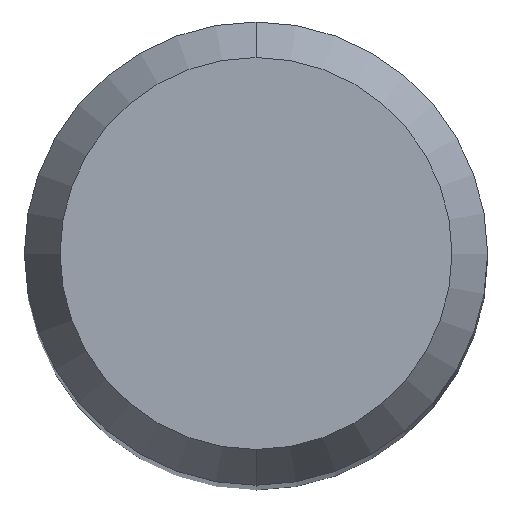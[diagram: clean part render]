
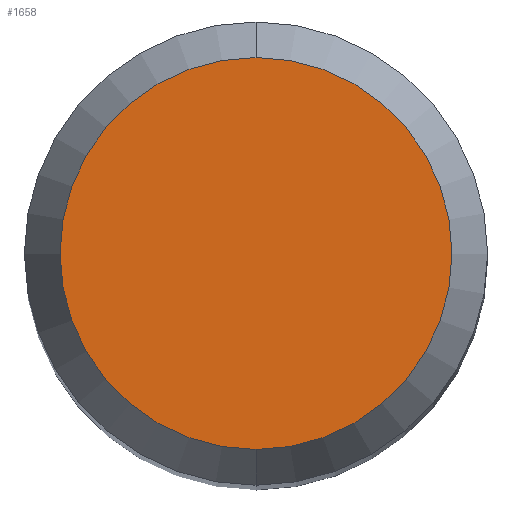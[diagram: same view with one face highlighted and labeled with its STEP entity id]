
A CAD part, top view. The second image highlights one B-rep face of the part: STEP entity #1658.
In plain terms, the highlighted planar face has unit normal (0, 0, 1).
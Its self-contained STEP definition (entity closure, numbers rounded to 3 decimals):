
#740=EDGE_CURVE('',#1452,#1562,#2001,.T.);
#1284=EDGE_CURVE('',#1562,#1452,#2589,.T.);
#1452=VERTEX_POINT('',#2770);
#1562=VERTEX_POINT('',#2893);
#1658=ADVANCED_FACE('',(#3000),#3001,.T.);
#2001=CIRCLE('',#4302,2.538);
#2589=CIRCLE('',#8992,2.538);
#2770=CARTESIAN_POINT('',(0.0,2.538,0.0));
#2893=CARTESIAN_POINT('',(0.,-2.538,0.0));
#3000=FACE_OUTER_BOUND('',#13490,.T.);
#3001=PLANE('',#13491);
#4302=AXIS2_PLACEMENT_3D('',#15395,#15396,#15397);
#8992=AXIS2_PLACEMENT_3D('',#15948,#15949,#15950);
#13490=EDGE_LOOP('',(#16368,#16369));
#13491=AXIS2_PLACEMENT_3D('',#16370,#16371,#16372);
#15395=CARTESIAN_POINT('',(0.0,0.0,0.0));
#15396=DIRECTION('',(0.0,0.0,-1.0));
#15397=DIRECTION('',(0.0,1.0,0.0));
#15948=CARTESIAN_POINT('',(0.0,0.0,0.0));
#15949=DIRECTION('',(0.0,0.0,-1.0));
#15950=DIRECTION('',(0.0,1.0,0.0));
#16368=ORIENTED_EDGE('',*,*,#740,.F.);
#16369=ORIENTED_EDGE('',*,*,#1284,.F.);
#16370=CARTESIAN_POINT('',(0.0,1.269,0.0));
#16371=DIRECTION('',(-0.0,0.0,1.0));
#16372=DIRECTION('',(0.0,-1.0,0.0));
